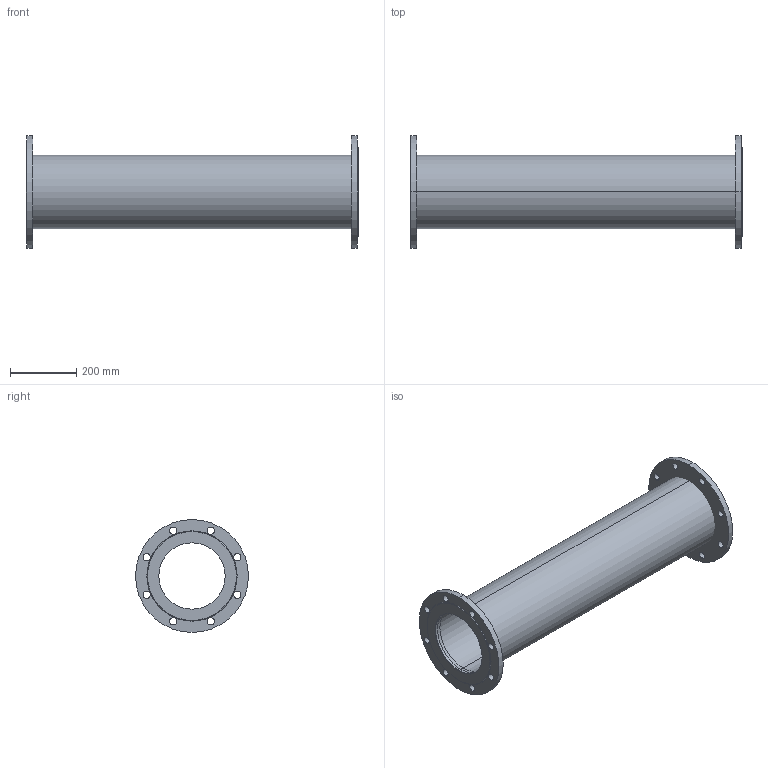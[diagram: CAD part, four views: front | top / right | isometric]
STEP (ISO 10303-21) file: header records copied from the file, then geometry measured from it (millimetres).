
FILE_DESCRIPTION(('STEP AP214'),'1');
FILE_NAME('U:/VDI-Daten/8500/8500_PN10_L1000_DN200.STP','2012-06-12T13:59:10',(' '),(' '),'Spatial InterOp 3D',' ',' ');
FILE_SCHEMA(('automotive_design'));
Length unit declared in the file: millimetre
Products named in the file (5): 3D-Objekt
Bounding box: 1000 x 340 x 340 mm (x, y, z)
Volume: 9277227.8 mm3; surface area: 1730820.7 mm2
Topology: 5 solids, 5 shells, 62 faces, 156 edges, 104 vertices
Faces by surface type: cylinder 48, plane 10, cone 4
Entity records: 2621 total; most frequent: DIRECTION 394, CARTESIAN_POINT 327, ORIENTED_EDGE 312, AXIS2_PLACEMENT_3D 171, EDGE_CURVE 156, EDGE_LOOP 104, VERTEX_POINT 104, CIRCLE 104
